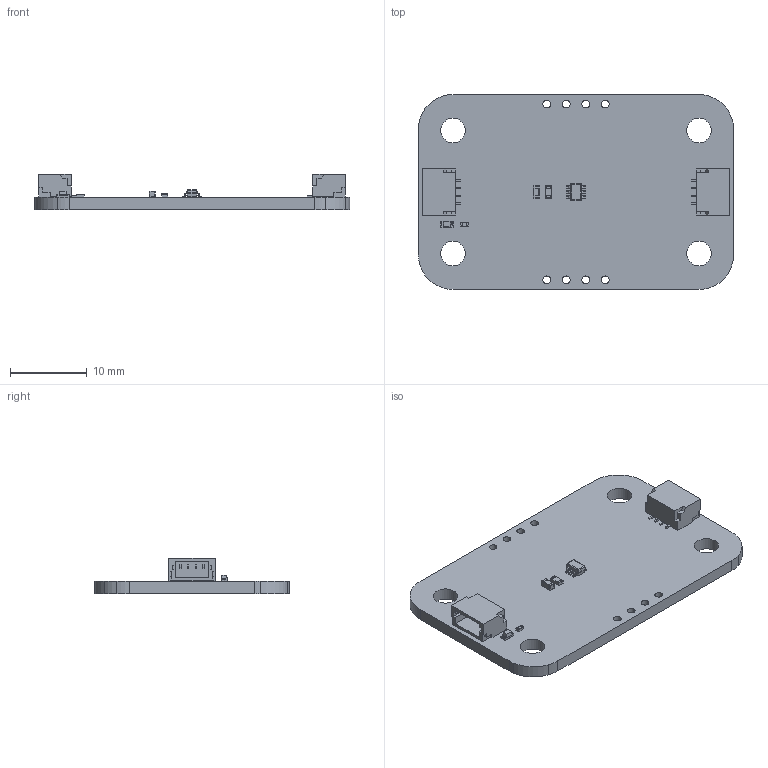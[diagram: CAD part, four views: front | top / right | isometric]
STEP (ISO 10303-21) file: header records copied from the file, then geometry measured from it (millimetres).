
FILE_DESCRIPTION(('Open CASCADE Model'),'2;1');
FILE_NAME('Open CASCADE Shape Model','2026-06-09T16:13:38',('Author'),( 'Open CASCADE'),'Open CASCADE STEP processor 7.5','Open CASCADE 7.5' ,'Unknown');
FILE_SCHEMA(('AUTOMOTIVE_DESIGN { 1 0 10303 214 1 1 1 1 }'));
Length unit declared in the file: millimetre
Products named in the file (19): PCB; Board; Open CASCADE STEP translator 7.5 4.1.1; U1; 12348112448; Body; Open CASCADE STEP translator 7.5 7.1.1; Leader; R4; RES-0603; C1; CAP-0603; R1; RES-0402; D1; HSMx-190; J2; SM04B-SRSS-TB_RGB12040119; J1
Assembly tree (24 placements, depth 5):
  PCB
    Board
      Open CASCADE STEP translator 7.5 4.1.1
    U1
      12348112448
        Body
          Open CASCADE STEP translator 7.5 7.1.1
        Leader  x6
    R4
      RES-0603
    C1
      CAP-0603
    R1
      RES-0402
    D1
      HSMx-190
    J2
      SM04B-SRSS-TB_RGB12040119
    J1
      SM04B-SRSS-TB_RGB12040119
Bounding box: 41 x 25.36 x 4.58 mm (x, y, z)
Volume: 1673.6 mm3; surface area: 2635.1 mm2
Topology: 14 solids, 14 shells, 599 faces, 1478 edges, 898 vertices
Faces by surface type: plane 437, cylinder 122, sphere 20, bspline 16, torus 4
Full cylindrical faces by diameter (mm): 0.07 x1, 1 x8, 3.2 x4
Entity records: 13855 total; most frequent: CARTESIAN_POINT 3051, ORIENTED_EDGE 1988, DIRECTION 1970, EDGE_CURVE 994, LINE 740, VECTOR 740, VERTEX_POINT 616, AXIS2_PLACEMENT_3D 615
